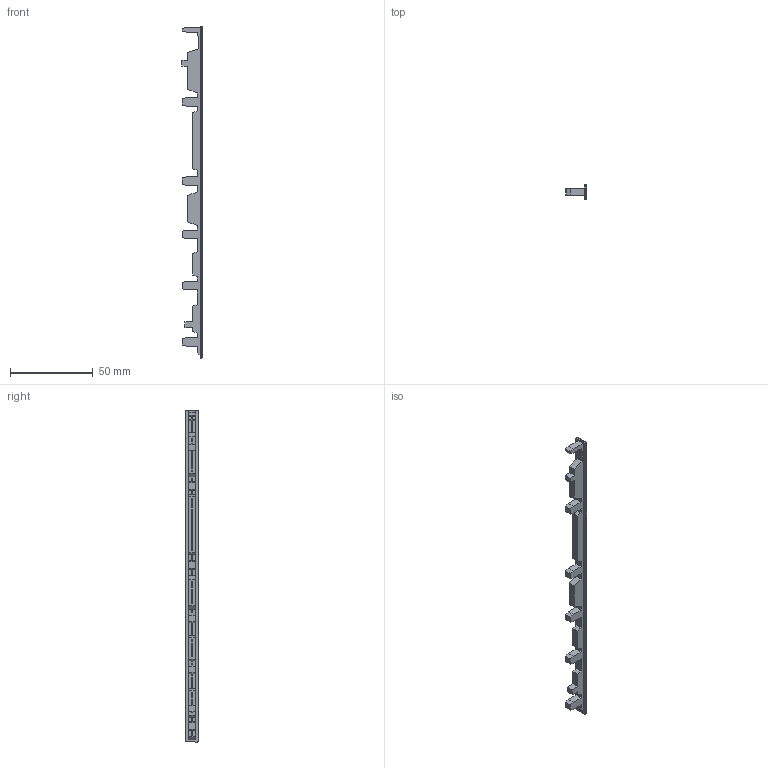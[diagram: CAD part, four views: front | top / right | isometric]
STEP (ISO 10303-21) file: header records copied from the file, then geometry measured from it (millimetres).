
FILE_DESCRIPTION (( 'STEP AP203' ), '1' );
FILE_NAME ('Vionaro V8 Abdeckkappe rechts.step', '2022-04-06T08:11:44', ( '' ), ( '' ), 'SwSTEP 2.0', 'SolidWorks 2021', '' );
FILE_SCHEMA (( 'CONFIG_CONTROL_DESIGN' ));
Length unit declared in the file: millimetre
Products named in the file (1): Vionaro V8 Abdeckkappe rechts
Bounding box: 12.5 x 8.4 x 201.2 mm (x, y, z)
Volume: 6540.4 mm3; surface area: 6614.9 mm2
Topology: 1 solids, 1 shells, 241 faces, 699 edges, 464 vertices
Faces by surface type: torus 95, plane 85, cylinder 61
Entity records: 8550 total; most frequent: CARTESIAN_POINT 2149, ORIENTED_EDGE 1398, DIRECTION 1272, EDGE_CURVE 699, VERTEX_POINT 464, AXIS2_PLACEMENT_3D 440, VECTOR 392, LINE 392
